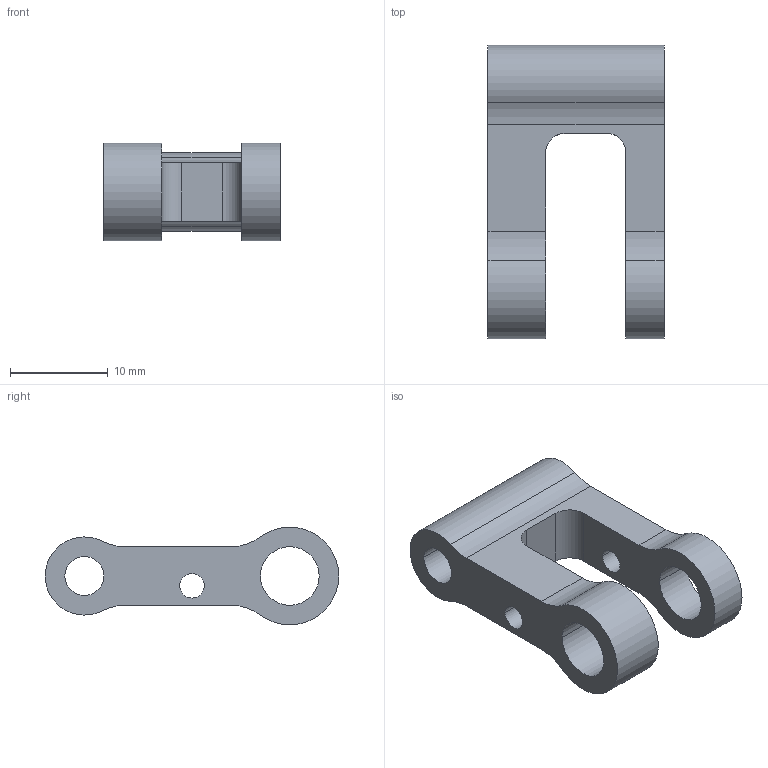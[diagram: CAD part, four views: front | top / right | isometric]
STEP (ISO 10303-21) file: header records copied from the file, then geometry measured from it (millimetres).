
FILE_DESCRIPTION(('CATIA V5 STEP Exchange'),'2;1');
FILE_NAME('C:\Users\user\Desktop\antivol\béta\3D\beta version metal v2\bielle.stp','2016-01-26T06:01:25+00:00',('none'),('none'),'CATIA Version 5 Release 18 GA (IN-10)','CATIA V5 STEP AP203','none');
FILE_SCHEMA(('CONFIG_CONTROL_DESIGN'));
Length unit declared in the file: millimetre
Products named in the file (1): bielle
Bounding box: 18 x 30 x 9.99 mm (x, y, z)
Volume: 1965.9 mm3; surface area: 1967.6 mm2
Topology: 1 solids, 1 shells, 28 faces, 78 edges, 52 vertices
Faces by surface type: cylinder 21, plane 7
Entity records: 894 total; most frequent: ORIENTED_EDGE 156, CARTESIAN_POINT 149, DIRECTION 114, EDGE_CURVE 78, AXIS2_PLACEMENT_3D 61, VERTEX_POINT 52, CIRCLE 42, EDGE_LOOP 38
